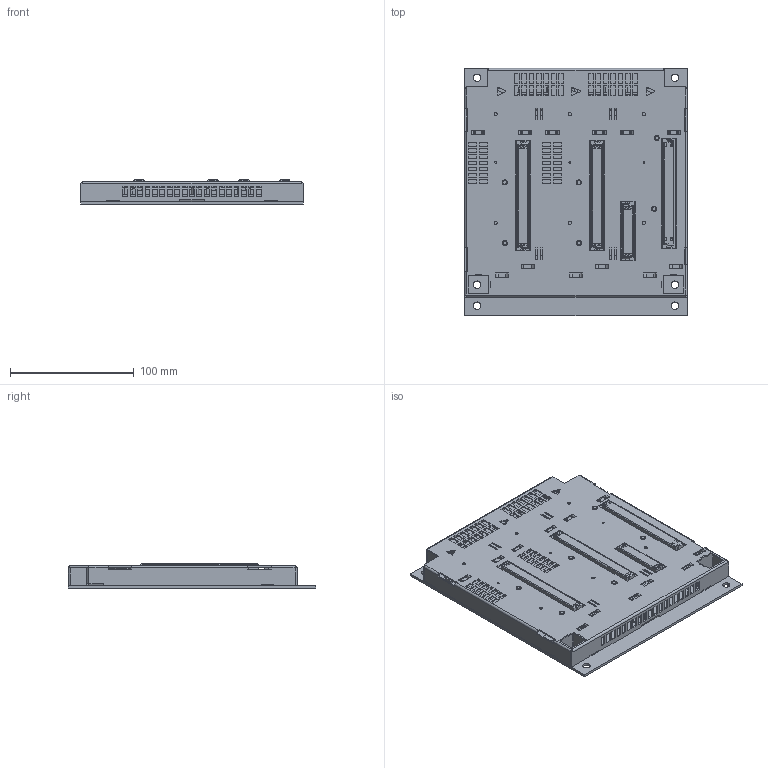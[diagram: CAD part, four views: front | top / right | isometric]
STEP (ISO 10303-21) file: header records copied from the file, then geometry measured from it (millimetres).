
FILE_DESCRIPTION (( 'STEP AP203' ), '1' );
FILE_NAME ('extern3d_09-402-021_MDM021_20100810.STEP', '2010-08-24T07:00:15', ( 'Anwender' ), ( 'SIGMATEK GMBH & CO KG' ), 'SwSTEP 2.0', 'SolidWorks 2009', '' );
FILE_SCHEMA (( 'CONFIG_CONTROL_DESIGN' ));
Length unit declared in the file: millimetre
Products named in the file (1): extern3d_09-402-021_MDM021_20100810
Bounding box: 180 x 200 x 19.6 mm (x, y, z)
Volume: 225220.5 mm3; surface area: 291672.5 mm2
Topology: 49 solids, 49 shells, 2732 faces, 7261 edges, 4675 vertices
Faces by surface type: plane 1836, cylinder 624, cone 144, bspline 72, torus 56
Entity records: 87362 total; most frequent: CARTESIAN_POINT 17591, ORIENTED_EDGE 14510, DIRECTION 14213, EDGE_CURVE 7255, VECTOR 5427, LINE 5427, VERTEX_POINT 4675, AXIS2_PLACEMENT_3D 4393
